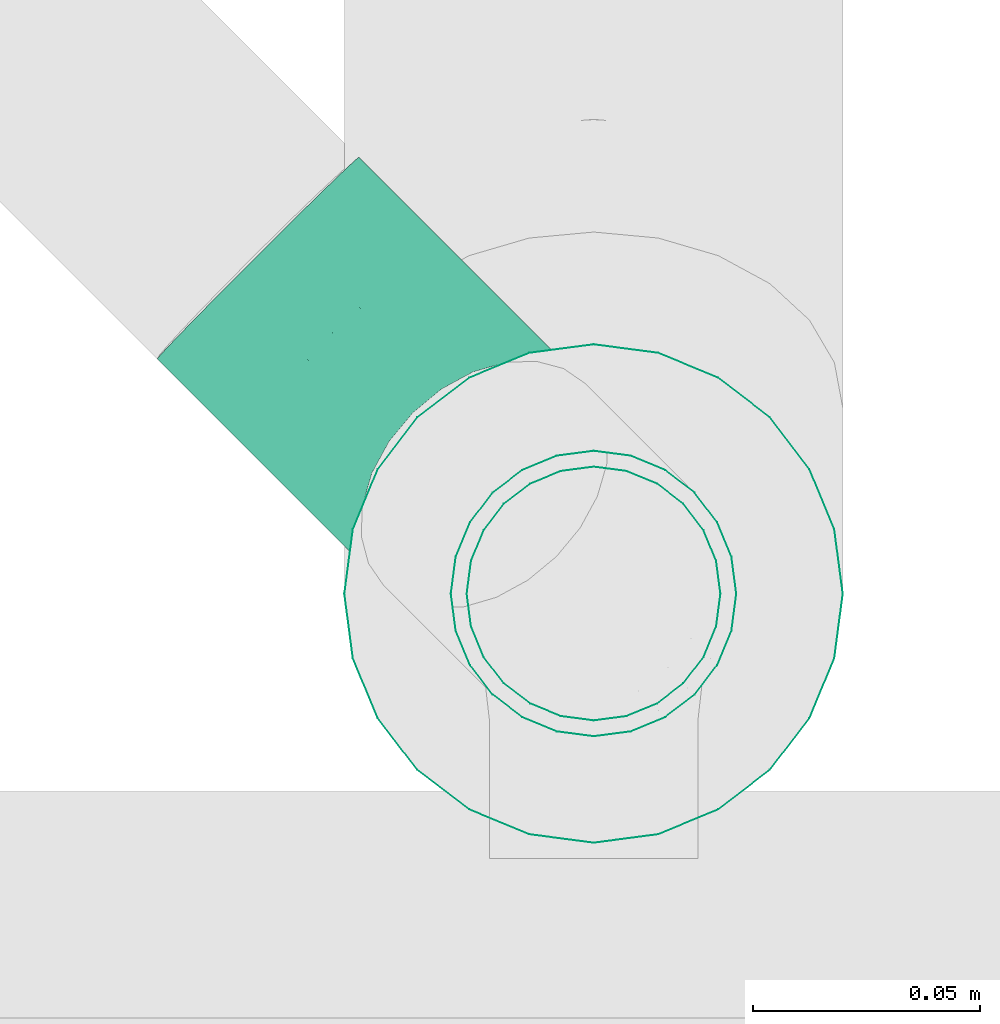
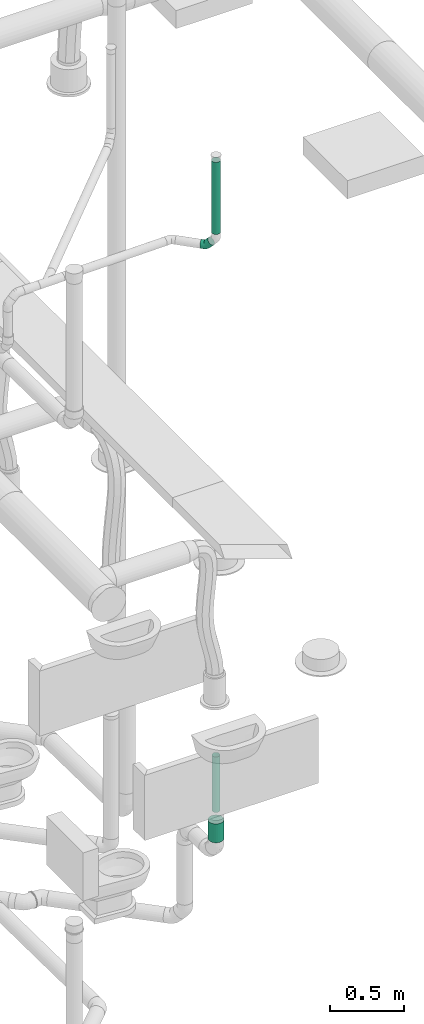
# One storey, part 299 of 374: 3 flow segments, 1 flow fitting.
"""IFC2X3 building model written with IfcOpenShell, lengths in metres."""

from ifc_helpers import new_model, si_unit, direction, origin, place, context, subcontext, project, spatial, open_shell, surface_model, source, transform, mapped, element, save


model = new_model("IFC2X3")

# Units and contexts
model_context = context("Model", 3, precision=1e-05, world=origin(), true_north=direction((-0.4480736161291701, 0.8939966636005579)))
body_context = subcontext(model_context, "Body", "Model", "MODEL_VIEW")
ifc_project = project(units=[si_unit("LENGTHUNIT", "METRE"), si_unit("AREAUNIT", "SQUARE_METRE"), si_unit("VOLUMEUNIT", "CUBIC_METRE"), si_unit("PLANEANGLEUNIT", "RADIAN"), si_unit("THERMODYNAMICTEMPERATUREUNIT", "KELVIN"), si_unit("MASSUNIT", "GRAM", prefix="KILO"), si_unit("TIMEUNIT", "SECOND")], contexts=[model_context])

# Site, building, storey
site_placement = place(None, origin())
site = spatial("IfcSite", under=ifc_project, at=site_placement, Name="Site 1", CompositionType="ELEMENT")
building_placement = place(site_placement, origin())
building = spatial("IfcBuilding", under=site, at=building_placement, Name="Undefined", CompositionType="ELEMENT")
storey_placement = place(building_placement, origin())
storey = spatial("IfcBuildingStorey", under=building, at=storey_placement, Name="Rez de chauss\x8ee", CompositionType="ELEMENT", Elevation=0.0)

# Flow fitting
shared_shape_1 = source(origin(), body_context, "Body", "SurfaceModel", [
    surface_model("IfcFaceBasedSurfaceModel", [(0.02359999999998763, -1.33226763e-15, -7.105427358e-15), (0.023599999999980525, 0.008223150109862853, -1.4210854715e-14), (0.0, 0.008223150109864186, -7.105427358e-15), (0.0, 0.0, 0.0), (0.02359999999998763, 0.01616610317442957, -0.0021283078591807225), (-7.105427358e-15, 0.016166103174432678, -0.0021283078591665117), (0.02359999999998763, 0.023287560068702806, -0.006239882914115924), (-7.105427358e-15, 0.023287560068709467, -0.00623988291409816), (0.02359999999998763, 0.0291022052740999, -0.012054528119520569), (-7.105427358e-15, 0.02910220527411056, -0.012054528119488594), (0.023599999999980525, 0.033213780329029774, -0.019175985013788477), (-7.105427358e-15, 0.03321378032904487, -0.019175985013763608), (0.023599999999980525, 0.035342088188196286, -0.027118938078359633), (-7.105427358e-15, 0.0353420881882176, -0.027118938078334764), (0.023599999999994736, 0.03534208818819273, -0.035342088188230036), (-7.105427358e-15, 0.03534208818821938, -0.03534208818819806), (0.023599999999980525, 0.03321378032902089, -0.04328504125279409), (-7.105427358e-15, 0.03321378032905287, -0.043285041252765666), (0.02359999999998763, 0.02910220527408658, -0.0504064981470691), (0.0, 0.029102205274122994, -0.05040649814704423), (0.02359999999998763, 0.023287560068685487, -0.05622114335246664), (-7.105427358e-15, 0.02328756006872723, -0.056221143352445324), (0.02359999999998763, 0.01616610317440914, -0.060332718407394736), (-7.105427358e-15, 0.016166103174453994, -0.06033271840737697), (0.023599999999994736, 0.008223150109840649, -0.06246102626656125), (0.0, 0.00822315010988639, -0.06246102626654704), (0.023599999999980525, -2.2648549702e-14, -0.06246102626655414), (0.0, 2.2204460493e-14, -0.06246102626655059), (0.02359999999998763, -0.007942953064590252, -0.06033271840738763), (-1.4210854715e-14, -0.007942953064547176, -0.06033271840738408), (0.02359999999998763, -0.01506440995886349, -0.056221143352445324), (-7.105427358e-15, -0.015064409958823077, -0.05622114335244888), (0.023599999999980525, -0.02087905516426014, -0.050406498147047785), (-7.105427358e-15, -0.02087905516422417, -0.050406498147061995), (0.023599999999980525, -0.02499063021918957, -0.04328504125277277), (-7.105427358e-15, -0.024990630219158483, -0.04328504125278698), (0.02359999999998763, -0.027118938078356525, -0.035342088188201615), (-1.4210854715e-14, -0.02711893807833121, -0.035342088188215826), (0.02359999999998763, -0.027118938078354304, -0.027118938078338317), (-7.105427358e-15, -0.027118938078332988, -0.027118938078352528), (0.023599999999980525, -0.02499063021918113, -0.019175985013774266), (0.0, -0.024990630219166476, -0.01917598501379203), (0.02359999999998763, -0.020879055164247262, -0.012054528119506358), (0.0, -0.020879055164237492, -0.012054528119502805), (0.023599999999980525, -0.015064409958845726, -0.006239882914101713), (-7.105427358e-15, -0.015064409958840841, -0.006239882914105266), (0.02359999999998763, -0.007942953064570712, -0.002128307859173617), (0.0, -0.007942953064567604, -0.002128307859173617), (-0.016006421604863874, 0.03327300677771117, -0.03561448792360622), (-0.01628162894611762, 0.03323743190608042, -0.027396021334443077), (-0.03094264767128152, 0.027204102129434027, -0.036413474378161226), (-0.031474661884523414, 0.027064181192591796, -0.028208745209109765), (-0.04381003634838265, 0.017541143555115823, -0.03768562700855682), (-0.044563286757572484, 0.01723508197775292, -0.029502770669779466), (-0.015199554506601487, 0.031248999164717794, -0.04354370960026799), (-0.029382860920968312, 0.02548602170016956, -0.04430241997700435), (-0.0416016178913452, 0.01631016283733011, -0.045510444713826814), (-0.013916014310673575, 0.02730334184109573, -0.050643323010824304), (-0.026901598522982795, 0.022027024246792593, -0.05133796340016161), (-0.038088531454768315, 0.013626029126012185, -0.05244397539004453), (-0.012243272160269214, 0.02170492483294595, -0.056429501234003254), (-0.02366795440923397, 0.01706283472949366, -0.057040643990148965), (-0.03351018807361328, 0.009671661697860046, -0.05801371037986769), (-0.010295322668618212, 0.014835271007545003, -0.060507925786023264), (-0.01990229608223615, 0.010931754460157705, -0.06102183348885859), (-0.02817859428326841, 0.004716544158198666, -0.061840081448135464), (-0.008204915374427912, 0.007162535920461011, -0.06260065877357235), (-0.015861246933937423, 0.004051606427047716, -0.06301022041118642), (-0.022457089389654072, -0.0009016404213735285, -0.06366232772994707), (-0.006114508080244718, -0.0007903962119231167, -0.06256508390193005), (-0.011820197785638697, -0.0031087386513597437, -0.06287029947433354), (-0.01673558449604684, -0.00680002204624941, -0.06335626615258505), (-0.004166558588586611, -0.008481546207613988, -0.0604036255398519), (-0.008054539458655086, -0.010061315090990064, -0.06061160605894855), (-0.011403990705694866, -0.012576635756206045, -0.06094275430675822), (-0.0024938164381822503, -0.015386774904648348, -0.05626358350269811), (-0.004820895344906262, -0.016332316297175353, -0.05638806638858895), (-0.0068256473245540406, -0.017837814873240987, -0.056586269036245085), (-0.0012102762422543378, -0.021035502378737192, -0.05042709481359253), (-0.002339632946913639, -0.0214943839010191, -0.05048750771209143), (-0.0033125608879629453, -0.022225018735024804, -0.050583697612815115), (-0.00040340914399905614, -0.0250427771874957, -0.043291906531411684), (-0.0007798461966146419, -0.025195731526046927, -0.04331204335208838), (-0.001104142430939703, -0.025439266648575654, -0.04334410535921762), (-0.00012820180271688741, -0.027135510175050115, -0.03534426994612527), (-0.0002478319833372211, -0.027184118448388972, -0.035350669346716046), (-0.00035089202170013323, -0.02726151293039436, -0.03536085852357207), (-0.00040340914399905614, -0.027171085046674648, -0.027125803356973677), (-0.0007798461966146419, -0.027324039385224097, -0.02714594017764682), (-0.001104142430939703, -0.0275675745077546, -0.02717800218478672), (-0.0012102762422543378, -0.0251470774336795, -0.01919658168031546), (-0.0023396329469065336, -0.025605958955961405, -0.019256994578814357), (-0.00331256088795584, -0.02633659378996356, -0.019353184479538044), (-0.0024938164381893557, -0.02120142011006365, -0.01209696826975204), (-0.004820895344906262, -0.022146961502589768, -0.012221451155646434), (-0.0068256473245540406, -0.023652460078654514, -0.012419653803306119), (-0.004166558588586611, -0.015603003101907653, -0.006310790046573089), (-0.00805453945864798, -0.01718277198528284, -0.006518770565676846), (-0.011403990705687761, -0.019698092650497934, -0.0068499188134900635), (-0.006114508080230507, -0.008733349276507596, -0.0022323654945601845), (-0.011820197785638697, -0.011051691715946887, -0.0025375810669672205), (-0.016735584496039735, -0.014742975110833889, -0.0030235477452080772), (-0.008204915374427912, -0.001060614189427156, -0.00013963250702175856), (-0.01586124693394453, -0.004171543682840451, -0.0005491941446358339), (-0.022457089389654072, -0.009124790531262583, -0.0012013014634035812), (-0.010295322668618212, 0.006892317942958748, -0.00017520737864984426), (-0.019902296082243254, 0.0029888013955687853, -0.0006891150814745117), (-0.02817859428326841, -0.0032264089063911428, -0.0015073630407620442), (-0.012243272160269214, 0.014583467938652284, -0.0023366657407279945), (-0.023667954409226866, 0.009941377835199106, -0.0029478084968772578), (-0.033510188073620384, 0.002550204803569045, -0.003920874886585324), (-0.013916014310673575, 0.02148869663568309, -0.006476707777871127), (-0.026901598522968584, 0.016212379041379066, -0.007171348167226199), (-0.038088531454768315, 0.007811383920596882, -0.00827736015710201), (-0.015199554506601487, 0.0271374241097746, -0.01231319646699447), (-0.029382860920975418, 0.02137444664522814, -0.013071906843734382), (-0.041601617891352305, 0.012198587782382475, -0.014279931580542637), (-0.01600642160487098, 0.031144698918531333, -0.019448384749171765), (-0.030942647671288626, 0.02507579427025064, -0.02024737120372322), (-0.04381003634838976, 0.015412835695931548, -0.021519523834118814), (-0.06902863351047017, -0.007089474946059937, -0.04092830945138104), (-0.06978188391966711, -0.007395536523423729, -0.03274545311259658), (-0.06682021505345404, -0.00832045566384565, -0.04875312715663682), (-0.06330712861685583, -0.011004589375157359, -0.055686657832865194), (-0.05872878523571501, -0.014958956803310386, -0.06125639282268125), (-0.053397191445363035, -0.019914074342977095, -0.06508276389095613), (-0.04767568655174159, -0.025532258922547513, -0.06690501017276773), (-0.04195418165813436, -0.031430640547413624, -0.06659894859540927), (-0.036622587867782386, -0.037207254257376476, -0.06418543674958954), (-0.032044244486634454, -0.042468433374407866, -0.05982895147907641), (-0.028531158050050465, -0.04685563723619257, -0.05382638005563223), (-0.026322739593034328, -0.05006988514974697, -0.04658678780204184), (-0.00035089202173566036, -0.02726151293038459, -0.03536085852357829), (-0.02556948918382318, -0.05189213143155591, -0.0386035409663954), (-0.026322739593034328, -0.05219819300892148, -0.03042068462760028), (-0.028531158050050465, -0.050967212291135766, -0.02259586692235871), (-0.03204424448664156, -0.04828307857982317, -0.015662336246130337), (-0.03662258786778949, -0.04432871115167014, -0.01009260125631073), (-0.04195418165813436, -0.03937359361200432, -0.006266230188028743), (-0.04767568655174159, -0.0337554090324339, -0.004443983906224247), (-0.053397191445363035, -0.02785702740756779, -0.004750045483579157), (-0.05872878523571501, -0.02208041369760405, -0.007163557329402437), (-0.06330712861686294, -0.016819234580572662, -0.01152004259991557), (-0.06682021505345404, -0.012432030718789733, -0.017522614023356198), (-0.06902863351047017, -0.00921778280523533, -0.024762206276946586)], [open_shell([[[0, 1, 2, 3]], [[1, 4, 5, 2]], [[4, 6, 7, 5]], [[6, 8, 9, 7]], [[8, 10, 11, 9]], [[10, 12, 13, 11]], [[12, 14, 15, 13]], [[14, 16, 17, 15]], [[16, 18, 19, 17]], [[18, 20, 21, 19]], [[20, 22, 23, 21]], [[22, 24, 25, 23]], [[24, 26, 27, 25]], [[26, 28, 29, 27]], [[28, 30, 31, 29]], [[30, 32, 33, 31]], [[32, 34, 35, 33]], [[34, 36, 37, 35]], [[36, 38, 39, 37]], [[38, 40, 41, 39]], [[40, 42, 43, 41]], [[42, 44, 45, 43]], [[44, 46, 47, 45]], [[46, 0, 3, 47]], [[13, 15, 48, 49]], [[49, 48, 50, 51]], [[51, 50, 52, 53]], [[15, 17, 54, 48]], [[48, 54, 55, 50]], [[50, 55, 56, 52]], [[17, 19, 57, 54]], [[54, 57, 58, 55]], [[55, 58, 59, 56]], [[19, 21, 60, 57]], [[57, 60, 61, 58]], [[58, 61, 62, 59]], [[21, 23, 63, 60]], [[60, 63, 64, 61]], [[61, 64, 65, 62]], [[23, 25, 66, 63]], [[63, 66, 67, 64]], [[64, 67, 68, 65]], [[25, 27, 69, 66]], [[66, 69, 70, 67]], [[67, 70, 71, 68]], [[27, 29, 72, 69]], [[69, 72, 73, 70]], [[70, 73, 74, 71]], [[29, 31, 75, 72]], [[72, 75, 76, 73]], [[73, 76, 77, 74]], [[31, 33, 78, 75]], [[75, 78, 79, 76]], [[76, 79, 80, 77]], [[33, 35, 81, 78]], [[78, 81, 82, 79]], [[79, 82, 83, 80]], [[35, 37, 84, 81]], [[81, 84, 85, 82]], [[82, 85, 86, 83]], [[37, 39, 87, 84]], [[84, 87, 88, 85]], [[85, 88, 89, 86]], [[39, 41, 90, 87]], [[87, 90, 91, 88]], [[88, 91, 92, 89]], [[41, 43, 93, 90]], [[90, 93, 94, 91]], [[91, 94, 95, 92]], [[43, 45, 96, 93]], [[93, 96, 97, 94]], [[94, 97, 98, 95]], [[45, 47, 99, 96]], [[96, 99, 100, 97]], [[97, 100, 101, 98]], [[47, 3, 102, 99]], [[99, 102, 103, 100]], [[100, 103, 104, 101]], [[3, 2, 105, 102]], [[102, 105, 106, 103]], [[103, 106, 107, 104]], [[2, 5, 108, 105]], [[105, 108, 109, 106]], [[106, 109, 110, 107]], [[5, 7, 111, 108]], [[108, 111, 112, 109]], [[109, 112, 113, 110]], [[7, 9, 114, 111]], [[111, 114, 115, 112]], [[112, 115, 116, 113]], [[9, 11, 117, 114]], [[114, 117, 118, 115]], [[115, 118, 119, 116]], [[11, 13, 49, 117]], [[117, 49, 51, 118]], [[118, 51, 53, 119]], [[53, 52, 120, 121]], [[52, 56, 122, 120]], [[56, 59, 123, 122]], [[59, 62, 124, 123]], [[62, 65, 125, 124]], [[65, 68, 126, 125]], [[68, 71, 127, 126]], [[71, 74, 128, 127]], [[74, 77, 129, 128]], [[77, 80, 130, 129]], [[80, 83, 131, 130]], [[83, 132, 133, 131]], [[132, 89, 134, 133]], [[89, 92, 135, 134]], [[92, 95, 136, 135]], [[95, 98, 137, 136]], [[98, 101, 138, 137]], [[101, 104, 139, 138]], [[104, 107, 140, 139]], [[107, 110, 141, 140]], [[110, 113, 142, 141]], [[113, 116, 143, 142]], [[116, 119, 144, 143]], [[119, 53, 121, 144]]])]),
])
flow_fitting_placement = place(storey_placement, origin())
element("IfcFlowFitting", 1, at=flow_fitting_placement, inside=storey, Name="PE-HD coude 45°", ObjectType="PE-HD coude 45°", context=body_context, shape_type="MappedRepresentation", body=[
    mapped(shared_shape_1, transform((58.49534452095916, 12.021826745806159, 4.655002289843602), x_axis=(-0.7070272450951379, 0.7070272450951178, -0.014998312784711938), y_axis=(0.10281063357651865, 0.08178127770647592, -0.9913333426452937), z_axis=(-0.6996731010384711, -0.7024416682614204, -0.1305115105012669))),
])

# Flow segments
shared_shape_2 = source(origin(), body_context, "Body", "SurfaceModel", [
    surface_model("IfcFaceBasedSurfaceModel", [(0.0, 0.008223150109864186, -7.105427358e-15), (0.0, 0.0, 0.0), (0.5967329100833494, 7.105427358e-15, -7.105427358e-15), (0.5967329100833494, 0.008223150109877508, -7.105427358e-15), (0.0, -0.007942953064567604, -0.002128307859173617), (0.5967329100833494, -0.007942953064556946, -0.002128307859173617), (-7.105427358e-15, -0.015064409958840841, -0.006239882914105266), (0.5967329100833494, -0.015064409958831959, -0.006239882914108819), (0.0, -0.020879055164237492, -0.012054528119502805), (0.5967329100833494, -0.0208790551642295, -0.012054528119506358), (0.0, -0.024990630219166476, -0.01917598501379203), (0.5967329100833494, -0.024990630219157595, -0.01917598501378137), (-7.105427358e-15, -0.027118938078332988, -0.027118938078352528), (0.5967329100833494, -0.02711893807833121, -0.027118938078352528), (-1.4210854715e-14, -0.02711893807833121, -0.035342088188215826), (0.5967329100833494, -0.027118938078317, -0.035342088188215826), (-7.105427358e-15, -0.024990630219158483, -0.04328504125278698), (0.5967329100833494, -0.024990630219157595, -0.04328504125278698), (-7.105427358e-15, -0.02087905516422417, -0.050406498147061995), (0.5967329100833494, -0.020879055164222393, -0.05040649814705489), (-7.105427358e-15, -0.015064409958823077, -0.05622114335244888), (0.5967329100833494, -0.015064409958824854, -0.056221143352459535), (-1.4210854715e-14, -0.007942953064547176, -0.06033271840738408), (0.5967329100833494, -0.007942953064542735, -0.060332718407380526), (0.0, 2.2204460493e-14, -0.06246102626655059), (0.5967329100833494, 2.1316282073e-14, -0.06246102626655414), (0.0, 0.00822315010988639, -0.06246102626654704), (0.5967329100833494, 0.008223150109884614, -0.06246102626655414), (-7.105427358e-15, 0.016166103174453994, -0.06033271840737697), (0.5967329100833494, 0.01616610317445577, -0.060332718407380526), (-7.105427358e-15, 0.02328756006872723, -0.056221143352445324), (0.5967329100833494, 0.02328756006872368, -0.05622114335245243), (0.0, 0.029102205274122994, -0.05040649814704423), (0.5967329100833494, 0.029102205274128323, -0.050406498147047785), (-7.105427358e-15, 0.03321378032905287, -0.043285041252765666), (0.5967329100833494, 0.033213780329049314, -0.04328504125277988), (-7.105427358e-15, 0.03534208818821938, -0.03534208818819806), (0.5967329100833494, 0.03534208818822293, -0.03534208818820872), (-7.105427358e-15, 0.0353420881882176, -0.027118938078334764), (0.5967329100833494, 0.03534208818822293, -0.027118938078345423), (-7.105427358e-15, 0.03321378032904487, -0.019175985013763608), (0.5967329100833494, 0.03321378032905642, -0.019175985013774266), (-7.105427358e-15, 0.02910220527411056, -0.012054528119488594), (0.5967329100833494, 0.029102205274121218, -0.012054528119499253), (-7.105427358e-15, 0.023287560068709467, -0.00623988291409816), (0.5967329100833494, 0.02328756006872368, -0.006239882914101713), (-7.105427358e-15, 0.016166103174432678, -0.0021283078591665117), (0.5967329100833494, 0.016166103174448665, -0.0021283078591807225)], [open_shell([[[0, 1, 2, 3]], [[1, 4, 5, 2]], [[4, 6, 7, 5]], [[6, 8, 9, 7]], [[8, 10, 11, 9]], [[10, 12, 13, 11]], [[12, 14, 15, 13]], [[14, 16, 17, 15]], [[16, 18, 19, 17]], [[18, 20, 21, 19]], [[20, 22, 23, 21]], [[22, 24, 25, 23]], [[24, 26, 27, 25]], [[26, 28, 29, 27]], [[28, 30, 31, 29]], [[30, 32, 33, 31]], [[32, 34, 35, 33]], [[34, 36, 37, 35]], [[36, 38, 39, 37]], [[38, 40, 41, 39]], [[40, 42, 43, 41]], [[42, 44, 45, 43]], [[44, 46, 47, 45]], [[46, 0, 3, 47]]])]),
])
flow_segment_1_placement = place(storey_placement, origin())
element("IfcFlowSegment", 2, at=flow_segment_1_placement, inside=storey, Name="PE-HD tuyau", ObjectType="PE-HD tuyau", context=body_context, shape_type="MappedRepresentation", body=[
    mapped(shared_shape_2, transform((58.59075718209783, 12.01399161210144, 4.772825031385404), x_axis=(0.0, 0.0, 1.0), y_axis=(0.79335334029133, -0.6087614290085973, 0.0), z_axis=(0.6087614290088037, 0.7933533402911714, 0.0))),
])
shared_shape_3 = source(origin(), body_context, "Body", "SurfaceModel", [
    surface_model("IfcFaceBasedSurfaceModel", [(0.0, 0.007309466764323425, 0.0), (0.0, 0.0, 0.0), (0.4591974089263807, 0.0, 7.105427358e-15), (0.4591974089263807, 0.007309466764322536, 0.0), (0.0, -0.007060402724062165, -0.0018918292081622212), (0.4591974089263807, -0.0070604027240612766, -0.0018918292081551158), (0.0, -0.013390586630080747, -0.00554656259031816), (0.4591974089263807, -0.013390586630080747, -0.005546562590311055), (0.0, -0.018559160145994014, -0.010715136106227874), (0.4591974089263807, -0.018559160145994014, -0.010715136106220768), (0.0, -0.022213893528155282, -0.017045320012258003), (0.4591974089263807, -0.022213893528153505, -0.017045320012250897), (0.0, -0.02410572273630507, -0.02410572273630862), (0.4591974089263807, -0.02410572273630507, -0.02410572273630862), (0.0, -0.024105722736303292, -0.03141518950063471), (0.4591974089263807, -0.02410572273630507, -0.031415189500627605), (0.0, -0.022213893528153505, -0.03847559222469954), (0.4591974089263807, -0.022213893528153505, -0.03847559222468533), (0.0, -0.01855916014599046, -0.04480577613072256), (0.4591974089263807, -0.01855916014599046, -0.04480577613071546), (0.0, -0.01339058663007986, -0.04997434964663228), (0.4591974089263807, -0.013390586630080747, -0.04997434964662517), (0.0, -0.007060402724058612, -0.05362908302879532), (0.4591974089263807, -0.007060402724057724, -0.05362908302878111), (0.0, 2.664535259e-15, -0.05552091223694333), (0.4591974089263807, 0.0, -0.055520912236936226), (0.0, 0.007309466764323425, -0.05552091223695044), (0.4591974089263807, 0.007309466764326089, -0.055520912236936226), (0.0, 0.014369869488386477, -0.053629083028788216), (0.4591974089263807, 0.014369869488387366, -0.05362908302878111), (0.0, 0.02070005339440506, -0.04997434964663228), (0.4591974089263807, 0.020700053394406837, -0.04997434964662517), (0.0, 0.025868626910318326, -0.04480577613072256), (0.4591974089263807, 0.025868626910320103, -0.04480577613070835), (0.0, 0.029523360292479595, -0.038475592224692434), (0.4591974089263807, 0.029523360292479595, -0.03847559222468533), (0.0, 0.03141518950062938, -0.031415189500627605), (0.4591974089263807, 0.03141518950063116, -0.031415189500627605), (0.0, 0.031415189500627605, -0.024105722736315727), (0.4591974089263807, 0.031415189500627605, -0.02410572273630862), (0.0, 0.029523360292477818, -0.017045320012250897), (0.4591974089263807, 0.029523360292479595, -0.017045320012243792), (0.0, 0.025868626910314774, -0.010715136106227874), (0.4591974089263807, 0.02586862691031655, -0.010715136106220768), (0.0, 0.020700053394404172, -0.00554656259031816), (0.4591974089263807, 0.020700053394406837, -0.005546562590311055), (0.0, 0.014369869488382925, -0.0018918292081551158), (0.4591974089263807, 0.014369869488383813, -0.0018918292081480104)], [open_shell([[[0, 1, 2, 3]], [[1, 4, 5, 2]], [[4, 6, 7, 5]], [[6, 8, 9, 7]], [[8, 10, 11, 9]], [[10, 12, 13, 11]], [[12, 14, 15, 13]], [[14, 16, 17, 15]], [[16, 18, 19, 17]], [[18, 20, 21, 19]], [[20, 22, 23, 21]], [[22, 24, 25, 23]], [[24, 26, 27, 25]], [[26, 28, 29, 27]], [[28, 30, 31, 29]], [[30, 32, 33, 31]], [[32, 34, 35, 33]], [[34, 36, 37, 35]], [[36, 38, 39, 37]], [[38, 40, 41, 39]], [[40, 42, 43, 41]], [[42, 44, 45, 43]], [[44, 46, 47, 45]], [[46, 0, 3, 47]]])]),
])
flow_segment_2_placement = place(storey_placement, origin())
element("IfcFlowSegment", 3, at=flow_segment_2_placement, inside=storey, Name="PE-HD tuyau", ObjectType="PE-HD tuyau", context=body_context, shape_type="MappedRepresentation", body=[
    mapped(shared_shape_3, transform((58.547961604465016, 11.993958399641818, 0.4410518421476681), x_axis=(0.0, 0.0, -1.0), y_axis=(-0.13052619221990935, -0.9914448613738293, 0.0), z_axis=(-0.9914448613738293, 0.13052619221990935, 0.0))),
])
shared_shape_4 = source(origin(), body_context, "Body", "SurfaceModel", [
    surface_model("IfcFaceBasedSurfaceModel", [(0.0, 0.014357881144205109, -3.552713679e-15), (0.0, 0.0, 0.0), (0.15618806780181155, 0.0, 0.0), (0.15618806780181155, 0.014357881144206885, 0.0), (0.0, -0.01386864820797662, -0.0037160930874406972), (0.15618806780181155, -0.013868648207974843, -0.0037160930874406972), (0.0, -0.026302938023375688, -0.010895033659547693), (0.15618806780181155, -0.026302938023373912, -0.01089503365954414), (0.0, -0.03645549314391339, -0.021047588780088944), (0.15618806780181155, -0.03645549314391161, -0.021047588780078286), (0.0, -0.04363443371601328, -0.033481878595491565), (0.15618806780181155, -0.0436344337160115, -0.03348187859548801), (0.0, -0.04735052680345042, -0.04735052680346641), (0.15618806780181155, -0.047350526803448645, -0.047350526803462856), (0.0, -0.04735052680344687, -0.06170840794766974), (0.15618806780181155, -0.047350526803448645, -0.061708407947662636), (0.0, -0.04363443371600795, -0.07557705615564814), (0.15618806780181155, -0.04363443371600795, -0.07557705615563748), (0.0, -0.03645549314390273, -0.08801134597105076), (0.15618806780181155, -0.03645549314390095, -0.0880113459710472), (0.0, -0.026302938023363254, -0.0981639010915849), (0.15618806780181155, -0.0263029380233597, -0.09816390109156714), (0.0, -0.013868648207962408, -0.1053428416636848), (0.15618806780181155, -0.013868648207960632, -0.10534284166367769), (0.0, 1.5987211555e-14, -0.10905893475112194), (0.15618806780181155, 1.4210854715e-14, -0.10905893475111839), (0.0, 0.014357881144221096, -0.10905893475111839), (0.15618806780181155, 0.014357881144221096, -0.10905893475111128), (0.0, 0.028226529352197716, -0.10534284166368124), (0.15618806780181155, 0.028226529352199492, -0.10534284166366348), (0.0, 0.040660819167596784, -0.0981639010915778), (0.15618806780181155, 0.04066081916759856, -0.09816390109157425), (0.0, 0.05081337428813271, -0.08801134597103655), (0.15618806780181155, 0.05081337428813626, -0.08801134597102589), (0.0, 0.05799231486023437, -0.07557705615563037), (0.15618806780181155, 0.05799231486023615, -0.07557705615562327), (0.0, 0.06170840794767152, -0.06170840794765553), (0.15618806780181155, 0.06170840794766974, -0.06170840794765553), (0.0, 0.061708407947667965, -0.0473505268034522), (0.15618806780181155, 0.06170840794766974, -0.047350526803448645), (0.0, 0.05799231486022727, -0.033481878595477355), (0.15618806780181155, 0.057992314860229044, -0.033481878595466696), (0.0, 0.050813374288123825, -0.021047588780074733), (0.15618806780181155, 0.0508133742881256, -0.02104758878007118), (0.0, 0.04066081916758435, -0.010895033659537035), (0.15618806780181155, 0.04066081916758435, -0.010895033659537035), (0.0, 0.028226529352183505, -0.0037160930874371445), (0.15618806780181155, 0.02822652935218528, -0.003716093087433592)], [open_shell([[[0, 1, 2, 3]], [[1, 4, 5, 2]], [[4, 6, 7, 5]], [[6, 8, 9, 7]], [[8, 10, 11, 9]], [[10, 12, 13, 11]], [[12, 14, 15, 13]], [[14, 16, 17, 15]], [[16, 18, 19, 17]], [[18, 20, 21, 19]], [[20, 22, 23, 21]], [[22, 24, 25, 23]], [[24, 26, 27, 25]], [[26, 28, 29, 27]], [[28, 30, 31, 29]], [[30, 32, 33, 31]], [[32, 34, 35, 33]], [[34, 36, 37, 35]], [[36, 38, 39, 37]], [[38, 40, 41, 39]], [[40, 42, 43, 41]], [[42, 44, 45, 43]], [[44, 46, 47, 45]], [[46, 0, 3, 47]]])]),
])
flow_segment_3_placement = place(storey_placement, origin())
element("IfcFlowSegment", 4, at=flow_segment_3_placement, inside=storey, Name="PE-HD tuyau", ObjectType="PE-HD tuyau", context=body_context, shape_type="MappedRepresentation", body=[
    mapped(shared_shape_4, transform((58.521881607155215, 12.000946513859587, -0.0944955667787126), x_axis=(0.0, 0.0, -1.0), y_axis=(-0.13052619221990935, -0.9914448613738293, 0.0), z_axis=(-0.9914448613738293, 0.13052619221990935, 0.0))),
])

save(model, "model.ifc")
